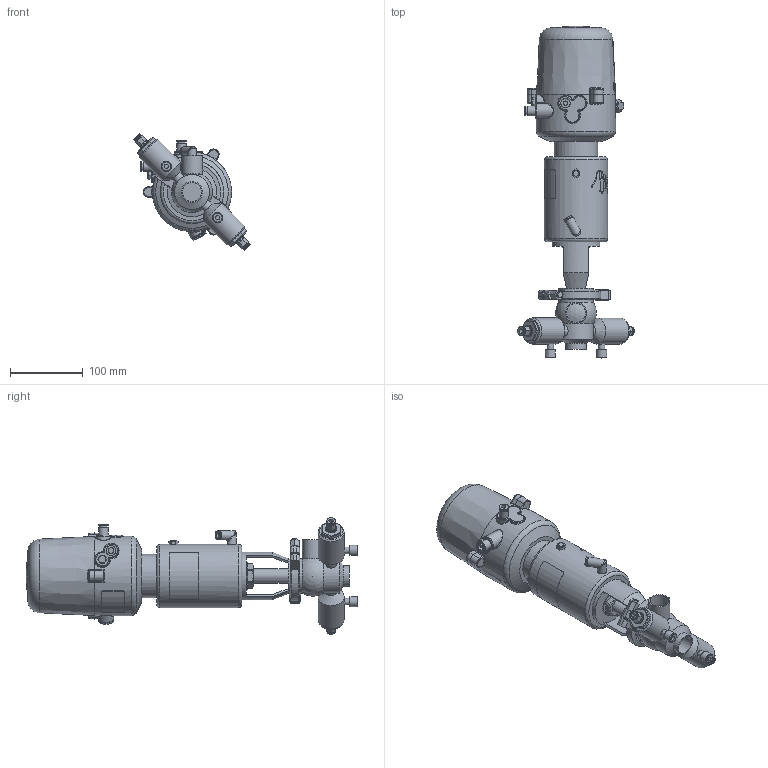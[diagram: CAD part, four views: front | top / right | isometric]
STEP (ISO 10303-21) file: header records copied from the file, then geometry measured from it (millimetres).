
FILE_DESCRIPTION (( 'STEP AP214' ), '1' );
FILE_NAME ('INNOVA D L W DIN 025 T1 AS NC & C-TOP S_10.246.16.0003.STEP', '2024-08-08T09:41:13', ( '' ), ( '' ), 'SwSTEP 2.0', 'SolidWorks 2023', '' );
FILE_SCHEMA (( 'AUTOMOTIVE_DESIGN' ));
Length unit declared in the file: millimetre
Products named in the file (7): 10.426.15.0001_C-TOP S - 1 EV; INNOVA D L W DIN 025 T1 AS NC & C-TOP S_10.246.16.0003; 10.240.15.0017_Estàndard; 10.246.15.0001_DIN 025; 10.240.15.0010_DN 025; 10.240.15.0001_DN 025; 10.240.15.0014_T1 AS P0
Assembly tree (6 placements, depth 2):
  INNOVA D L W DIN 025 T1 AS NC & C-TOP S_10.246.16.0003
    10.246.15.0001_DIN 025
    10.240.15.0010_DN 025
    10.240.15.0014_T1 AS P0
    10.240.15.0017_Estàndard
    10.426.15.0001_C-TOP S - 1 EV
    10.240.15.0001_DN 025
Bounding box: 160.65 x 457 x 160.65 mm (x, y, z)
Volume: 2507349.9 mm3; surface area: 215547.2 mm2
Topology: 6 solids, 6 shells, 1200 faces, 2862 edges, 1898 vertices
Faces by surface type: plane 441, cylinder 351, cone 206, bspline 160, torus 36, sphere 6
Full cylindrical faces by diameter (mm): 0.371 x17, 0.512 x16, 0.658 x16, 0.795 x16, 0.94 x15, 1.098 x15, 1.241 x13, 1.382 x13, 1.523 x11, 1.669 x10, 2.201 x1, 4 x2, 5.5 x2, 6 x6, 6.15 x1, 8 x4, 8.5 x1, 9 x2, 10 x3, 10.5 x1, 11 x2, 12 x4, 12.5 x3, 13 x2, 13.5 x2, 14 x4, 15 x2, 16 x1, 17 x3, 20 x3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
Entity records: 59424 total; most frequent: CARTESIAN_POINT 27426, ORIENTED_EDGE 4846, DIRECTION 4029, EDGE_CURVE 2423, VERTEX_POINT 1718, EDGE_LOOP 1693, AXIS2_PLACEMENT_3D 1628, FACE_OUTER_BOUND 1431
